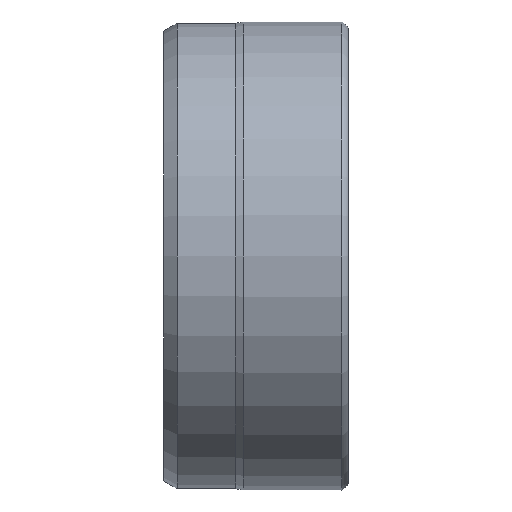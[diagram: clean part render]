
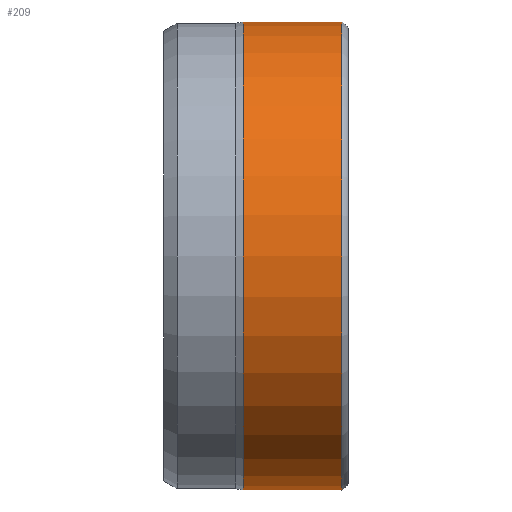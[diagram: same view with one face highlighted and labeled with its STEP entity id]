
A CAD part, left-side view. The second image highlights one B-rep face of the part: STEP entity #209.
In plain terms, the highlighted cylindrical face has radius 17.5 mm (diameter 35 mm), a partial arc.
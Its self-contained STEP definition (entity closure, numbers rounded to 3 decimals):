
#44 = DIRECTION ( 'NONE',  ( 0., -1., 0. ) ) ;
#60 = CIRCLE ( 'NONE', #772, 17.5 ) ;
#63 = DIRECTION ( 'NONE',  ( 0., -1., 0. ) ) ;
#64 = EDGE_LOOP ( 'NONE', ( #180, #664, #376, #268 ) ) ;
#86 = DIRECTION ( 'NONE',  ( 0., 0., -1. ) ) ;
#89 = DIRECTION ( 'NONE',  ( 0., -1., 0. ) ) ;
#101 = CARTESIAN_POINT ( 'NONE',  ( 0., 0.469, -17.5 ) ) ;
#121 = EDGE_CURVE ( 'NONE', #335, #332, #1045, .T. ) ;
#156 = CARTESIAN_POINT ( 'NONE',  ( 0., 0., -17.5 ) ) ;
#178 = CARTESIAN_POINT ( 'NONE',  ( 0., 0., 0. ) ) ;
#180 = ORIENTED_EDGE ( 'NONE', *, *, #810, .F. ) ;
#209 = ADVANCED_FACE ( 'NONE', ( #328 ), #327, .T. ) ;
#215 = DIRECTION ( 'NONE',  ( 0., -1., 0. ) ) ;
#224 = CARTESIAN_POINT ( 'NONE',  ( 0., 0., 17.5 ) ) ;
#268 = ORIENTED_EDGE ( 'NONE', *, *, #736, .F. ) ;
#280 = LINE ( 'NONE', #156, #422 ) ;
#312 = EDGE_CURVE ( 'NONE', #332, #618, #280, .T. ) ;
#327 = CYLINDRICAL_SURFACE ( 'NONE', #353, 17.5 ) ;
#328 = FACE_OUTER_BOUND ( 'NONE', #64, .T. ) ;
#332 = VERTEX_POINT ( 'NONE', #904 ) ;
#335 = VERTEX_POINT ( 'NONE', #403 ) ;
#339 = CARTESIAN_POINT ( 'NONE',  ( 0., 0.469, 0. ) ) ;
#347 = LINE ( 'NONE', #224, #924 ) ;
#353 = AXIS2_PLACEMENT_3D ( 'NONE', #178, #63, #1020 ) ;
#376 = ORIENTED_EDGE ( 'NONE', *, *, #312, .T. ) ;
#403 = CARTESIAN_POINT ( 'NONE',  ( 0., 7.851, 17.5 ) ) ;
#422 = VECTOR ( 'NONE', #44, 1000. ) ;
#424 = AXIS2_PLACEMENT_3D ( 'NONE', #892, #796, #701 ) ;
#618 = VERTEX_POINT ( 'NONE', #101 ) ;
#622 = VERTEX_POINT ( 'NONE', #774 ) ;
#664 = ORIENTED_EDGE ( 'NONE', *, *, #121, .T. ) ;
#701 = DIRECTION ( 'NONE',  ( 0., 0., -1. ) ) ;
#736 = EDGE_CURVE ( 'NONE', #622, #618, #60, .T. ) ;
#772 = AXIS2_PLACEMENT_3D ( 'NONE', #339, #215, #86 ) ;
#774 = CARTESIAN_POINT ( 'NONE',  ( 0., 0.469, 17.5 ) ) ;
#796 = DIRECTION ( 'NONE',  ( 0., -1., 0. ) ) ;
#810 = EDGE_CURVE ( 'NONE', #335, #622, #347, .T. ) ;
#892 = CARTESIAN_POINT ( 'NONE',  ( 0., 7.851, 0. ) ) ;
#904 = CARTESIAN_POINT ( 'NONE',  ( 0., 7.851, -17.5 ) ) ;
#924 = VECTOR ( 'NONE', #89, 1000. ) ;
#1020 = DIRECTION ( 'NONE',  ( 0., 0., -1. ) ) ;
#1045 = CIRCLE ( 'NONE', #424, 17.5 ) ;
